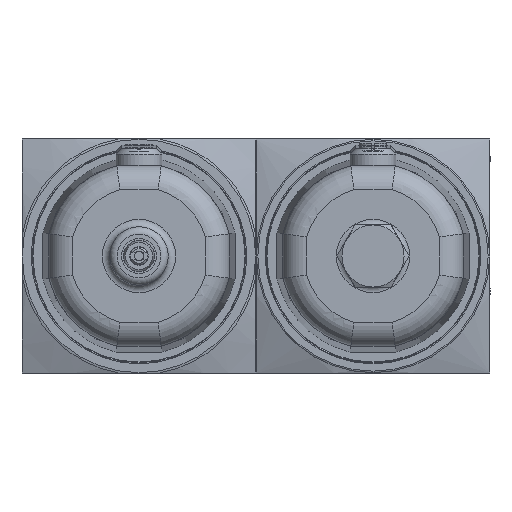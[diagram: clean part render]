
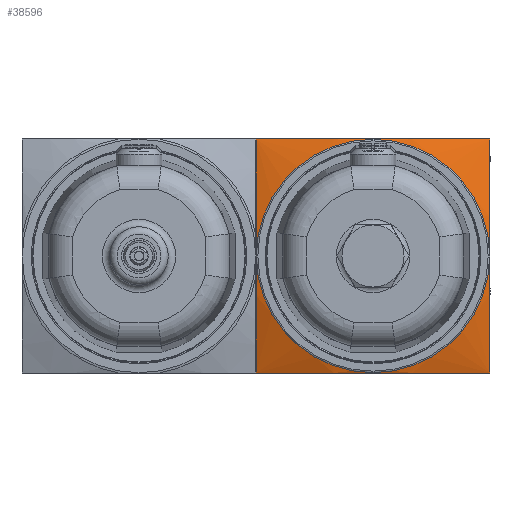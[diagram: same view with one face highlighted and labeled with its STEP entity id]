
A CAD part, front view. The second image highlights one B-rep face of the part: STEP entity #38596.
In plain terms, the highlighted spherical face has radius 130 mm.
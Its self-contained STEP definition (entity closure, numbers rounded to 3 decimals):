
#1329=SPHERICAL_SURFACE('',#43358,130.);
#1638=FACE_BOUND('',#6470,.T.);
#4050=FACE_OUTER_BOUND('',#6469,.T.);
#6469=EDGE_LOOP('',(#30615,#30616,#30617,#30618));
#6470=EDGE_LOOP('',(#30619));
#8493=CIRCLE('',#43359,126.);
#8494=CIRCLE('',#43360,126.);
#8495=CIRCLE('',#43361,126.);
#8496=CIRCLE('',#43362,126.);
#8497=CIRCLE('',#43363,31.9);
#17593=VERTEX_POINT('',#65249);
#17594=VERTEX_POINT('',#65250);
#17595=VERTEX_POINT('',#65252);
#17596=VERTEX_POINT('',#65254);
#17597=VERTEX_POINT('',#65257);
#22200=EDGE_CURVE('',#17593,#17594,#8493,.T.);
#22201=EDGE_CURVE('',#17595,#17593,#8494,.T.);
#22202=EDGE_CURVE('',#17596,#17595,#8495,.T.);
#22203=EDGE_CURVE('',#17594,#17596,#8496,.T.);
#22204=EDGE_CURVE('',#17597,#17597,#8497,.T.);
#30615=ORIENTED_EDGE('',*,*,#22200,.F.);
#30616=ORIENTED_EDGE('',*,*,#22201,.F.);
#30617=ORIENTED_EDGE('',*,*,#22202,.F.);
#30618=ORIENTED_EDGE('',*,*,#22203,.F.);
#30619=ORIENTED_EDGE('',*,*,#22204,.F.);
#38596=ADVANCED_FACE('',(#4050,#1638),#1329,.T.);
#43358=AXIS2_PLACEMENT_3D('',#65248,#51121,#51122);
#43359=AXIS2_PLACEMENT_3D('',#65251,#51123,#51124);
#43360=AXIS2_PLACEMENT_3D('',#65253,#51125,#51126);
#43361=AXIS2_PLACEMENT_3D('',#65255,#51127,#51128);
#43362=AXIS2_PLACEMENT_3D('',#65256,#51129,#51130);
#43363=AXIS2_PLACEMENT_3D('',#65258,#51131,#51132);
#51121=DIRECTION('center_axis',(0.,0.,
1.));
#51122=DIRECTION('ref_axis',(1.,0.,0.));
#51123=DIRECTION('center_axis',(0.,0.,
-1.));
#51124=DIRECTION('ref_axis',(0.,-1.,0.));
#51125=DIRECTION('center_axis',(-1.,0.,0.));
#51126=DIRECTION('ref_axis',(0.,0.,
-1.));
#51127=DIRECTION('center_axis',(0.,0.,
1.));
#51128=DIRECTION('ref_axis',(0.,1.,0.));
#51129=DIRECTION('center_axis',(1.,0.,0.));
#51130=DIRECTION('ref_axis',(0.,0.,
1.));
#51131=DIRECTION('center_axis',(0.,1.,0.));
#51132=DIRECTION('ref_axis',(0.,0.,
-1.));
#65248=CARTESIAN_POINT('Origin',(0.,-82.025,
0.));
#65249=CARTESIAN_POINT('',(-32.,39.843,-32.));
#65250=CARTESIAN_POINT('',(32.,39.843,-32.));
#65251=CARTESIAN_POINT('Origin',(0.,-82.025,
-32.));
#65252=CARTESIAN_POINT('',(-32.,39.843,32.));
#65253=CARTESIAN_POINT('Origin',(-32.,-82.025,0.));
#65254=CARTESIAN_POINT('',(32.,39.843,32.));
#65255=CARTESIAN_POINT('Origin',(0.,-82.025,
32.));
#65256=CARTESIAN_POINT('Origin',(32.,-82.025,0.));
#65257=CARTESIAN_POINT('',(0.,44.,31.9));
#65258=CARTESIAN_POINT('Origin',(0.,44.,0.));
